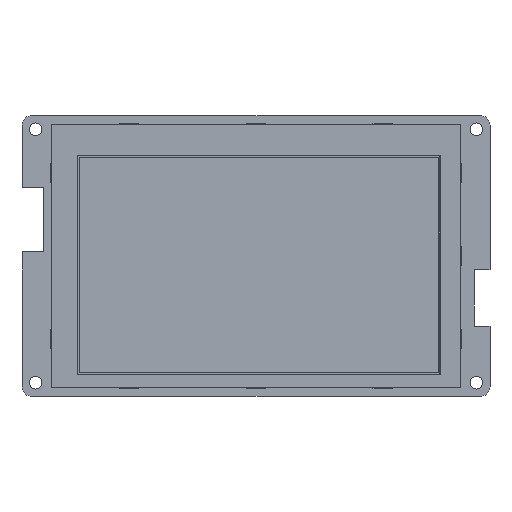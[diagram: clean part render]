
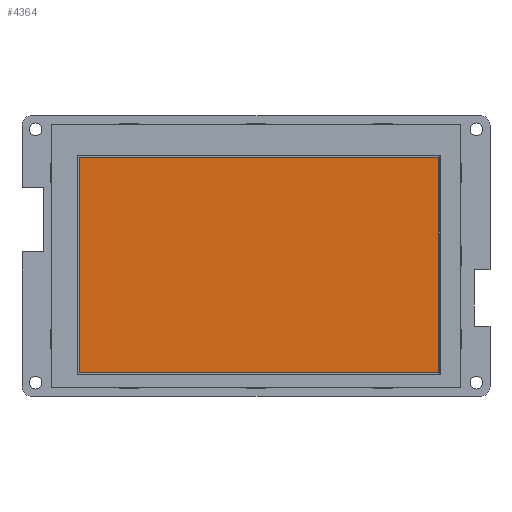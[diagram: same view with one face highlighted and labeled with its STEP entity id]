
A CAD part, front view. The second image highlights one B-rep face of the part: STEP entity #4364.
In plain terms, the highlighted planar face has unit normal (0, -1, 0) as drawn and (0, 1, 0) by its records, which use the part's own axes.
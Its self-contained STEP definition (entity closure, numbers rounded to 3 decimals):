
#3967=DIRECTION('',(0.,0.,-1.));
#3968=VECTOR('',#3967,93.6);
#3969=CARTESIAN_POINT('',(-25.71,2.55,46.08));
#3970=LINE('',#3969,#3968);
#3971=DIRECTION('',(1.,0.,0.));
#3972=VECTOR('',#3971,56.16);
#3973=CARTESIAN_POINT('',(-25.71,2.55,-47.52));
#3974=LINE('',#3973,#3972);
#3975=DIRECTION('',(0.,0.,1.));
#3976=VECTOR('',#3975,93.6);
#3977=CARTESIAN_POINT('',(30.45,2.55,-47.52));
#3978=LINE('',#3977,#3976);
#3979=DIRECTION('',(-1.,0.,0.));
#3980=VECTOR('',#3979,56.16);
#3981=CARTESIAN_POINT('',(30.45,2.55,46.08));
#3982=LINE('',#3981,#3980);
#4039=CARTESIAN_POINT('',(-25.71,2.55,-47.52));
#4040=VERTEX_POINT('',#4039);
#4041=CARTESIAN_POINT('',(-25.71,2.55,46.08));
#4042=VERTEX_POINT('',#4041);
#4043=CARTESIAN_POINT('',(30.45,2.55,-47.52));
#4044=VERTEX_POINT('',#4043);
#4045=CARTESIAN_POINT('',(30.45,2.55,46.08));
#4046=VERTEX_POINT('',#4045);
#4353=CARTESIAN_POINT('',(0.,2.55,0.));
#4354=DIRECTION('',(0.,1.,0.));
#4355=DIRECTION('',(1.,0.,0.));
#4356=AXIS2_PLACEMENT_3D('',#4353,#4354,#4355);
#4357=PLANE('',#4356);
#4358=ORIENTED_EDGE('',*,*,#4305,.T.);
#4359=ORIENTED_EDGE('',*,*,#4320,.T.);
#4360=ORIENTED_EDGE('',*,*,#4334,.T.);
#4361=ORIENTED_EDGE('',*,*,#4347,.T.);
#4362=EDGE_LOOP('',(#4358,#4359,#4360,#4361));
#4363=FACE_OUTER_BOUND('',#4362,.F.);
#4305=EDGE_CURVE('',#4042,#4040,#3970,.T.);
#4320=EDGE_CURVE('',#4040,#4044,#3974,.T.);
#4334=EDGE_CURVE('',#4044,#4046,#3978,.T.);
#4347=EDGE_CURVE('',#4046,#4042,#3982,.T.);
#4364=ADVANCED_FACE('',(#4363),#4357,.T.);
